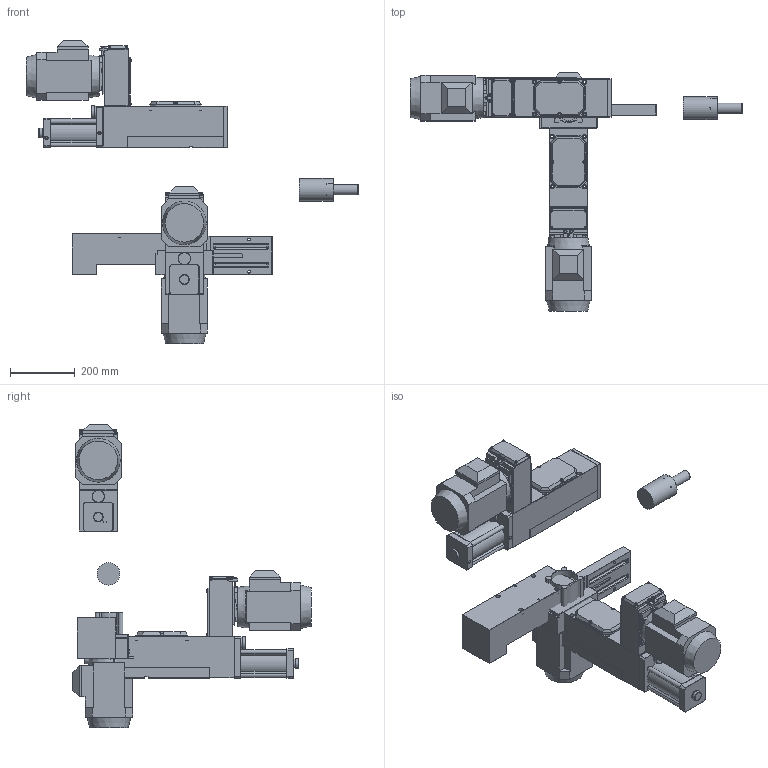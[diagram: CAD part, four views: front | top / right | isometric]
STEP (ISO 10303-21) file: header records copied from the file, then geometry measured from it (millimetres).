
FILE_DESCRIPTION( ( 'STEP AP203' ), '1' );
FILE_NAME( 'C:/Documents and Settings/Saverio/Desktop/disegni ironcad/unità serie 1/F 114/F 114_A05_P.stp', '2013-12-10T14:57:18', ( ' ' ), ( ' ' ), 'XStep 1.0', ' ', ' ' );
FILE_SCHEMA( ( 'CONFIG_CONTROL_DESIGN' ) );
Length unit declared in the file: metre
Products named in the file (39): Assem1; Assem2; Assem3; 1; 2; 3; 4; 5; 6; 7; 8; 9; 10; 11; 12; 13; 14; 15; 16; 17; 18; 19; 20; 21; 22; 23; 24; 25; 26; 27; 28; 29; 30; 31; 32; 33; 34; 35; 36
Bounding box: 1026.39 x 737.2 x 939.13 mm (x, y, z)
Volume: 31590614.9 mm3; surface area: 3038591.4 mm2
Topology: 108 solids, 111 shells, 2448 faces, 5460 edges, 3333 vertices
Faces by surface type: plane 1605, cylinder 426, cone 321, sphere 60, bspline 24, torus 12
Full cylindrical faces by diameter (mm): 4.5 x12, 5 x30, 5.5 x15, 6 x30, 6.5 x6, 6.9 x12, 8.385 x3, 8.5 x24, 9.87 x12, 10.25 x6, 13.5 x12, 18 x3, 20 x3, 27.5 x3, 30 x3, 32 x6, 36 x3, 39 x3, 52 x3, 52.5 x3, 54 x6, 54.4 x3, 70 x3, 71 x3, 80 x15
Entity records: 24055 total; most frequent: CARTESIAN_POINT 4892, DIRECTION 3657, ORIENTED_EDGE 3256, EDGE_CURVE 1628, AXIS2_PLACEMENT_3D 1289, VERTEX_POINT 1092, LINE 1079, VECTOR 1079
